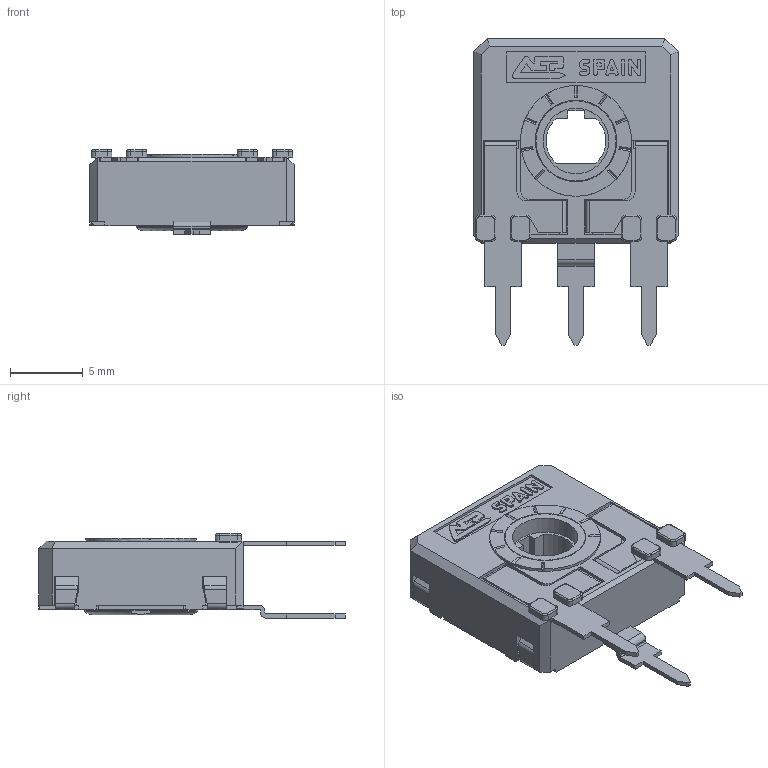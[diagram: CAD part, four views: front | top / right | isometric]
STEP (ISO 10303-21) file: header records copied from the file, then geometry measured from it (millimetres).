
FILE_DESCRIPTION(/* description */ (''),/* implementation_level */ '2;1');
FILE_NAME(/* name */ 'C:\Users\CEM\Desktop\ENVIAR\TRANSICION 3D CATALOGOS\RS14TH5.stp',/* time_stamp */ '2025-12-10T11:29:59+01:00',/* author */ ('CEM'),/* organization */ (''),/* preprocessor_version */ 'ST-DEVELOPER v16.13',/* originating_system */ 'Autodesk Inventor 2018',/* authorisation */ '');
FILE_SCHEMA (('AUTOMOTIVE_DESIGN { 1 0 10303 214 3 1 1 }'));
Length unit declared in the file: millimetre
Products named in the file (1): CARCASA CA14 PGA
Bounding box: 14 x 21 x 5.8 mm (x, y, z)
Volume: 519.6 mm3; surface area: 1438.4 mm2
Topology: 1 solids, 1 shells, 667 faces, 1875 edges, 1205 vertices
Faces by surface type: plane 495, cylinder 135, torus 23, bspline 8, cone 6
Full cylindrical faces by diameter (mm): 4.5 x1, 5.5 x1, 5.6 x1, 5.752 x1, 6.8 x1, 7.6 x1
Entity records: 21559 total; most frequent: CARTESIAN_POINT 3940, ORIENTED_EDGE 3720, DIRECTION 3506, EDGE_CURVE 1860, LINE 1478, VECTOR 1478, VERTEX_POINT 1200, AXIS2_PLACEMENT_3D 1014
